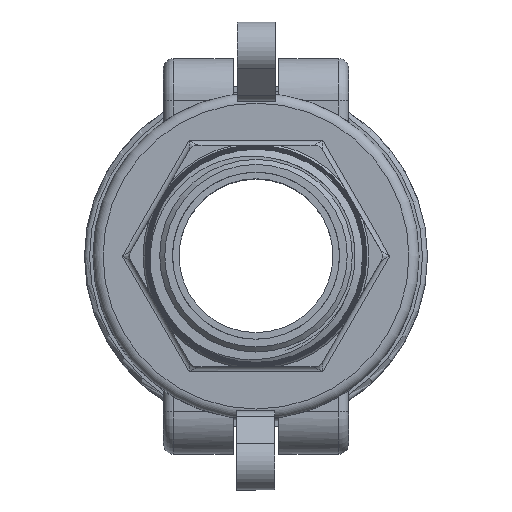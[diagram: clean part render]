
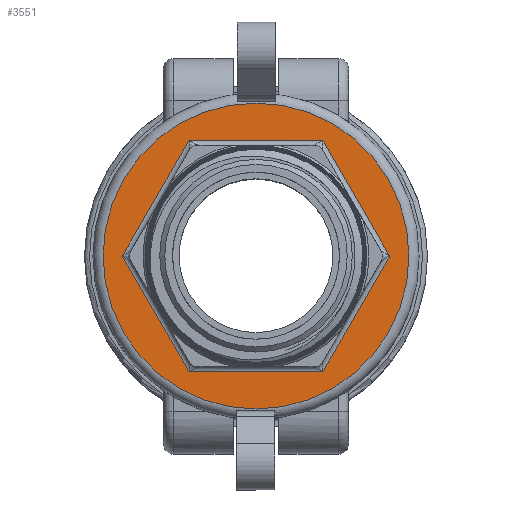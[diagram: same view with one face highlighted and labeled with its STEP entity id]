
A CAD part, top view. The second image highlights one B-rep face of the part: STEP entity #3551.
In plain terms, the highlighted planar face has unit normal (0, 0, 1).
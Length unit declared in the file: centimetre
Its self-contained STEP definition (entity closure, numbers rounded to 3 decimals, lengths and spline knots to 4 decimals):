
#711=VECTOR('',#4067,1.);
#713=VECTOR('',#4073,1.);
#719=VECTOR('',#4094,1.);
#723=VECTOR('',#4112,1.);
#730=VECTOR('',#4132,1.);
#734=VECTOR('',#4145,1.);
#885=LINE('',#11822,#711);
#887=LINE('',#11828,#713);
#893=LINE('',#11984,#719);
#897=LINE('',#12133,#723);
#904=LINE('',#12300,#730);
#908=LINE('',#12447,#734);
#1055=PLANE('',#3771);
#1119=CIRCLE('',#3772,2.2987);
#1277=VERTEX_POINT('',#11648);
#1288=VERTEX_POINT('',#11815);
#1291=VERTEX_POINT('',#11827);
#1293=VERTEX_POINT('',#11964);
#1299=VERTEX_POINT('',#11985);
#1304=VERTEX_POINT('',#12132);
#1317=VERTEX_POINT('',#12450);
#1695=EDGE_CURVE('',#1288,#1277,#885,.T.);
#1698=EDGE_CURVE('',#1291,#1288,#887,.T.);
#1710=EDGE_CURVE('',#1293,#1299,#893,.T.);
#1719=EDGE_CURVE('',#1304,#1291,#897,.T.);
#1735=EDGE_CURVE('',#1299,#1304,#904,.T.);
#1742=EDGE_CURVE('',#1277,#1293,#908,.T.);
#1743=EDGE_CURVE('',#1317,#1317,#1119,.T.);
#2263=ORIENTED_EDGE('',*,*,#1743,.F.);
#2264=ORIENTED_EDGE('',*,*,#1710,.F.);
#2265=ORIENTED_EDGE('',*,*,#1742,.F.);
#2266=ORIENTED_EDGE('',*,*,#1695,.F.);
#2267=ORIENTED_EDGE('',*,*,#1698,.F.);
#2268=ORIENTED_EDGE('',*,*,#1719,.F.);
#2269=ORIENTED_EDGE('',*,*,#1735,.F.);
#3071=EDGE_LOOP('',(#2263));
#3072=EDGE_LOOP('',(#2264,#2265,#2266,#2267,#2268,#2269));
#3313=FACE_BOUND('',#3071,.T.);
#3314=FACE_BOUND('',#3072,.T.);
#3551=ADVANCED_FACE('',(#3313,#3314),#1055,.F.);
#3771=AXIS2_PLACEMENT_3D('',#12448,#4146,$);
#3772=AXIS2_PLACEMENT_3D('',#12449,#4147,#4148);
#4067=DIRECTION('',(0.5,-0.866,0.));
#4073=DIRECTION('',(-0.5,-0.866,0.));
#4094=DIRECTION('',(0.5,0.866,0.));
#4112=DIRECTION('',(-1.,0.,0.));
#4132=DIRECTION('',(-0.5,0.866,0.));
#4145=DIRECTION('',(1.,0.,0.));
#4146=DIRECTION('',(0.,0.,-1.));
#4147=DIRECTION('',(0.,0.,-1.));
#4148=DIRECTION('',(2.299,0.,0.));
#11648=CARTESIAN_POINT('',(-1.0045,-1.7399,0.));
#11815=CARTESIAN_POINT('',(-2.0091,0.,0.));
#11822=CARTESIAN_POINT('',(-1.5068,-0.8699,0.));
#11827=CARTESIAN_POINT('',(-1.0045,1.7399,0.));
#11828=CARTESIAN_POINT('',(-1.5068,0.87,0.));
#11964=CARTESIAN_POINT('',(1.0045,-1.7399,0.));
#11984=CARTESIAN_POINT('',(1.5068,-0.87,0.));
#11985=CARTESIAN_POINT('',(2.0091,0.,0.));
#12132=CARTESIAN_POINT('',(1.0045,1.7399,0.));
#12133=CARTESIAN_POINT('',(0.,1.7399,0.));
#12300=CARTESIAN_POINT('',(1.5068,0.87,0.));
#12447=CARTESIAN_POINT('',(0.,-1.7399,0.));
#12448=CARTESIAN_POINT('',(0.,0.,
0.));
#12449=CARTESIAN_POINT('',(0.,0.,
0.));
#12450=CARTESIAN_POINT('',(-2.2987,0.,0.));
